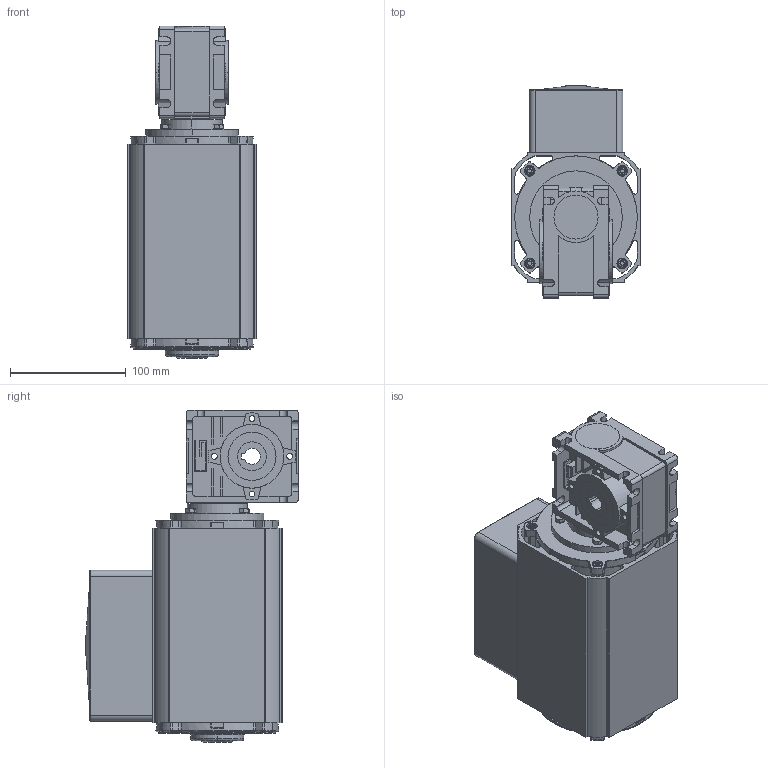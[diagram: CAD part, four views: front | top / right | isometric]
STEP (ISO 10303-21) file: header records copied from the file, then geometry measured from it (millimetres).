
FILE_DESCRIPTION (( 'STEP AP203' ), '1' );
FILE_NAME ('AC10080NV-RA3000T.STEP', '2008-06-30T20:39:15', ( 'eng-rjs' ), ( 'groschopp' ), 'SwSTEP 2.0', 'SolidWorks 2008', '' );
FILE_SCHEMA (( 'CONFIG_CONTROL_DESIGN' ));
Length unit declared in the file: inch
Products named in the file (1): AC10080NV-RA3000T
Bounding box: 112.27 x 183.66 x 286.72 mm (x, y, z)
Surface area: 289586.6 mm2 (no closed solid volume)
Topology: 0 solids, 36 shells, 1004 faces, 3143 edges, 2102 vertices
Faces by surface type: plane 465, cylinder 307, bspline 96, torus 65, cone 55, sphere 16
Entity records: 38159 total; most frequent: CARTESIAN_POINT 11185, DIRECTION 5514, ORIENTED_EDGE 5427, EDGE_CURVE 3143, VERTEX_POINT 2102, AXIS2_PLACEMENT_3D 2023, LINE 1468, VECTOR 1468
